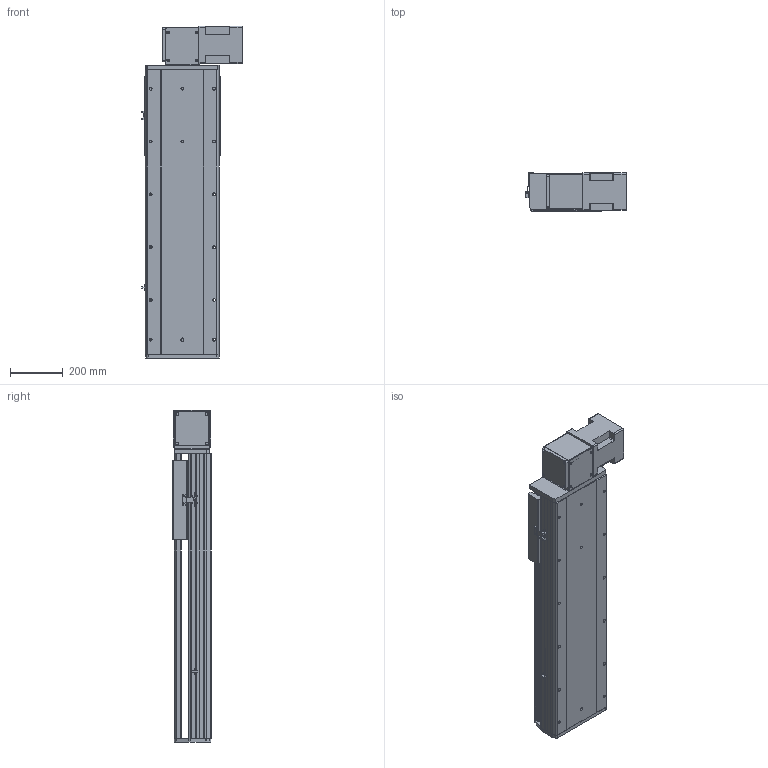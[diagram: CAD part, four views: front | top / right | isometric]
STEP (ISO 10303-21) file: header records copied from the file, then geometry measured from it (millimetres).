
FILE_DESCRIPTION (( 'STEP AP214' ), '1' );
FILE_NAME ('RTB28S-XX-650-BL-M100-XX-C4.STEP', '2025-12-22T02:17:47', ( '' ), ( '' ), 'SwSTEP 2.0', 'SolidWorks 2018', '' );
FILE_SCHEMA (( 'AUTOMOTIVE_DESIGN' ));
Length unit declared in the file: millimetre
Products named in the file (4): RTB28S-GY-011^RTB28S-XX-XX-BL-M100-XX-C4; RTB28S-GY-008^RTB28S-XX-XX-BL-M100-XX-C4; RTB28S-GY-004^RTB28S-XX-XX-BL-M100-XX-C4; RTB28S-XX-650-BL-M100-XX-C4
Assembly tree (3 placements, depth 2):
  RTB28S-XX-650-BL-M100-XX-C4
    RTB28S-GY-011^RTB28S-XX-XX-BL-M100-XX-C4
    RTB28S-GY-004^RTB28S-XX-XX-BL-M100-XX-C4
    RTB28S-GY-008^RTB28S-XX-XX-BL-M100-XX-C4
Bounding box: 380.7 x 145 x 1257 mm (x, y, z)
Volume: 24103721.8 mm3; surface area: 2363698.1 mm2
Topology: 3 solids, 4 shells, 768 faces, 2028 edges, 1288 vertices
Faces by surface type: cylinder 343, plane 341, cone 80, torus 4
Entity records: 28541 total; most frequent: CARTESIAN_POINT 4702, DIRECTION 4290, ORIENTED_EDGE 3992, EDGE_CURVE 1996, AXIS2_PLACEMENT_3D 1540, VERTEX_POINT 1288, VECTOR 1210, LINE 1210
